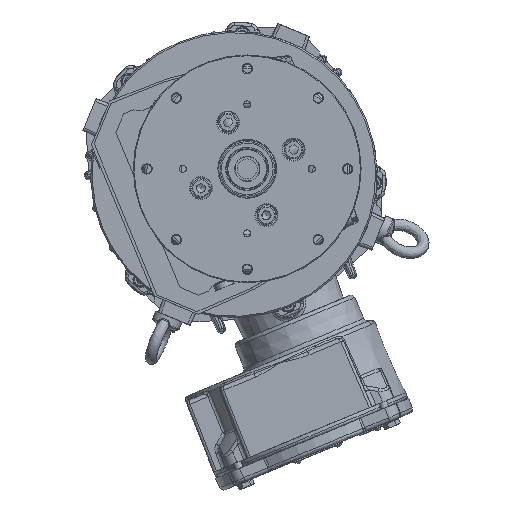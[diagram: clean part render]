
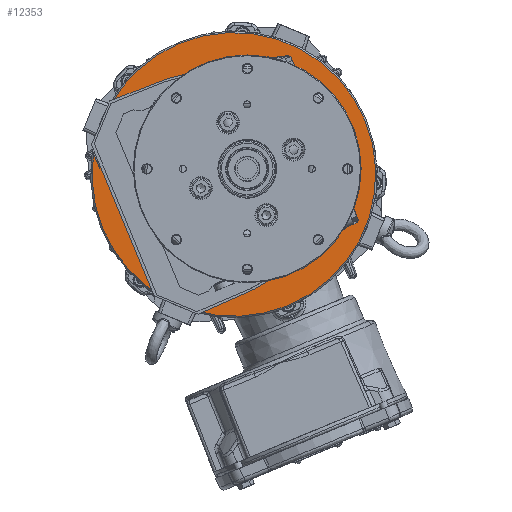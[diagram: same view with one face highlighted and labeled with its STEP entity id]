
A CAD part, front view. The second image highlights one B-rep face of the part: STEP entity #12353.
In plain terms, the highlighted planar face has unit normal (0, -1, 0).
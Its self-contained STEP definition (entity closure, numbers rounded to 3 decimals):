
#2319 = CARTESIAN_POINT ( 'NONE',  ( -9.319, 322.7, -3.86 ) ) ;
#12353 = ADVANCED_FACE ( 'NONE', ( #51943, #71540 ), #82141, .T. ) ;
#20385 = DIRECTION ( 'NONE',  ( 0., -1., 0. ) ) ;
#24762 = CIRCLE ( 'NONE', #67264, 99. ) ;
#28826 = DIRECTION ( 'NONE',  ( 0.924, 0., 0.383 ) ) ;
#29523 = CARTESIAN_POINT ( 'NONE',  ( -9.319, 322.7, -3.86 ) ) ;
#33798 = EDGE_CURVE ( 'NONE', #37042, #37042, #24762, .T. ) ;
#34477 = DIRECTION ( 'NONE',  ( -0.383, 0., 0.924 ) ) ;
#35726 = EDGE_LOOP ( 'NONE', ( #94622 ) ) ;
#37042 = VERTEX_POINT ( 'NONE', #122525 ) ;
#42928 = DIRECTION ( 'NONE',  ( 0., 1., 0. ) ) ;
#43783 = AXIS2_PLACEMENT_3D ( 'NONE', #107224, #20385, #127535 ) ;
#51943 = FACE_OUTER_BOUND ( 'NONE', #81032, .T. ) ;
#53522 = AXIS2_PLACEMENT_3D ( 'NONE', #29523, #114314, #28826 ) ;
#67264 = AXIS2_PLACEMENT_3D ( 'NONE', #2319, #42928, #34477 ) ;
#71540 = FACE_BOUND ( 'NONE', #35726, .T. ) ;
#73273 = VERTEX_POINT ( 'NONE', #84562 ) ;
#81032 = EDGE_LOOP ( 'NONE', ( #95379 ) ) ;
#82141 = PLANE ( 'NONE',  #43783 ) ;
#84562 = CARTESIAN_POINT ( 'NONE',  ( 46.114, 322.7, 19.101 ) ) ;
#94622 = ORIENTED_EDGE ( 'NONE', *, *, #99718, .T. ) ;
#95379 = ORIENTED_EDGE ( 'NONE', *, *, #33798, .F. ) ;
#99718 = EDGE_CURVE ( 'NONE', #73273, #73273, #100450, .T. ) ;
#100450 = CIRCLE ( 'NONE', #53522, 60. ) ;
#107224 = CARTESIAN_POINT ( 'NONE',  ( -32.28, 322.7, -59.293 ) ) ;
#114314 = DIRECTION ( 'NONE',  ( 0., 1., 0. ) ) ;
#122525 = CARTESIAN_POINT ( 'NONE',  ( -47.205, 322.7, 87.604 ) ) ;
#127535 = DIRECTION ( 'NONE',  ( 0.924, 0., 0.383 ) ) ;
